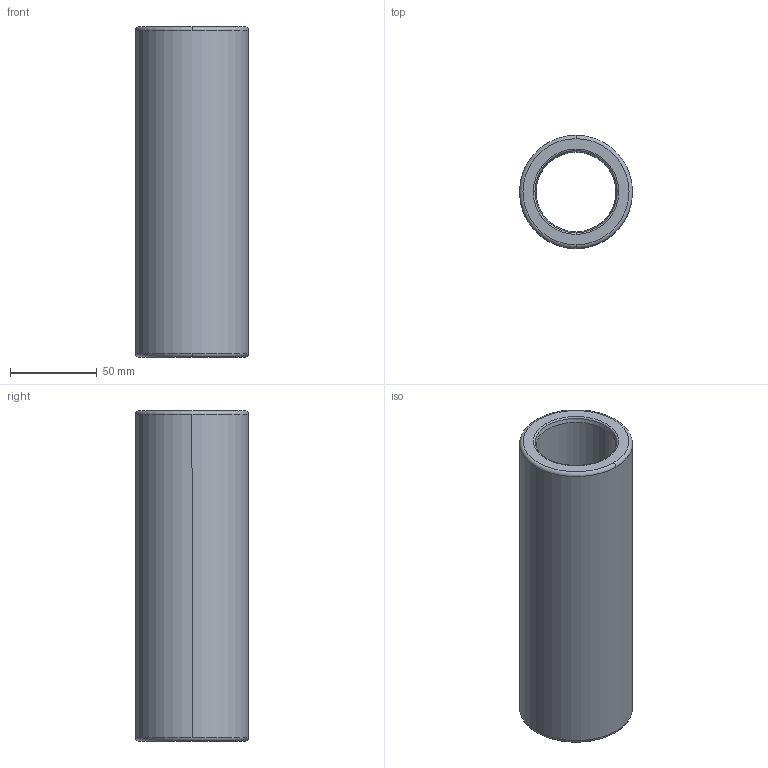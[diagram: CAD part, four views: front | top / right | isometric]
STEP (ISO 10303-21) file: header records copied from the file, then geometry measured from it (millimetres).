
FILE_DESCRIPTION((''),'2;1');
FILE_NAME('B30_038_190.stp','2009-01-12T10:48:16',(''),(''),'Mechanical Desktop 2009','Mechanical Desktop 2009',', , ');
FILE_SCHEMA(('CONFIG_CONTROL_DESIGN'));
Length unit declared in the file: millimetre
Products named in the file (2): Product; blmdl1
Assembly tree (1 placements, depth 2):
  Product
    blmdl1
Bounding box: 64.99 x 64.99 x 190 mm (x, y, z)
Volume: 314231.3 mm3; surface area: 68928.5 mm2
Topology: 1 solids, 1 shells, 18 faces, 48 edges, 32 vertices
Faces by surface type: torus 8, cylinder 4, cone 4, plane 2
Entity records: 705 total; most frequent: DIRECTION 128, CARTESIAN_POINT 100, ORIENTED_EDGE 96, AXIS2_PLACEMENT_3D 60, EDGE_CURVE 48, CIRCLE 40, VERTEX_POINT 32, EDGE_LOOP 20
